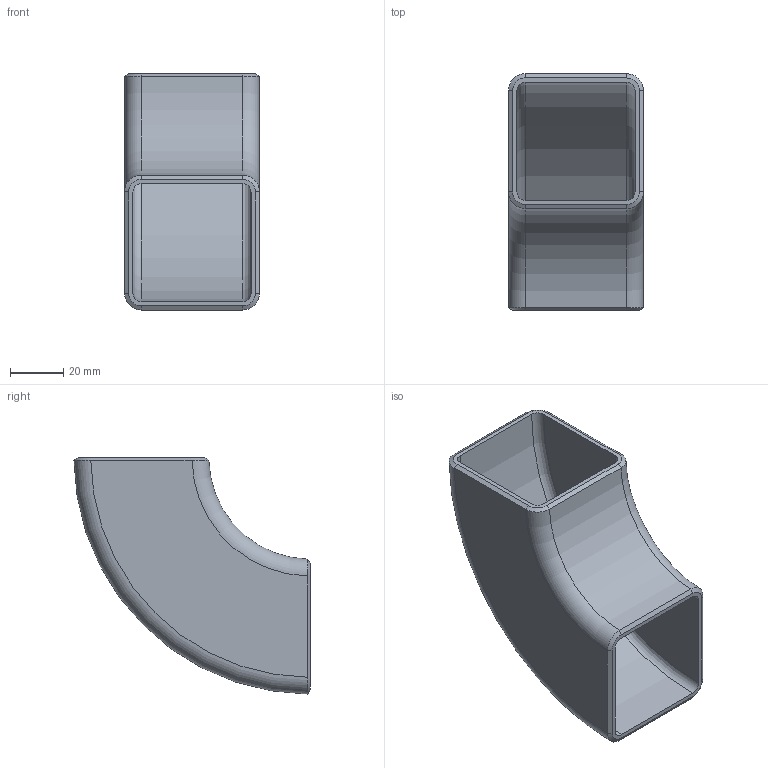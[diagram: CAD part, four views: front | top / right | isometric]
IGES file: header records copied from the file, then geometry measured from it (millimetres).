
Global section: file name: No Iges File Name specified; native system: Autodesk Inventor 2011; preprocessor: AutoDesk Inventor Iges Exporter R2011; author: bamfomg; date: 20110321.073157; units: inch
Bounding box: 50.8 x 88.9 x 88.9 mm (x, y, z)
Volume: 57469.9 mm3; surface area: 37272.7 mm2
Topology: 1 solids, 1 shells, 34 faces, 80 edges, 48 vertices
Faces by surface type: bspline 16, revolution 6, plane 6, torus 4, cylinder 2
